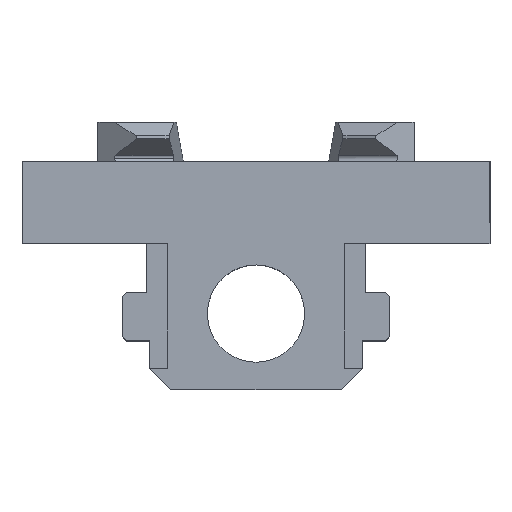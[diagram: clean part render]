
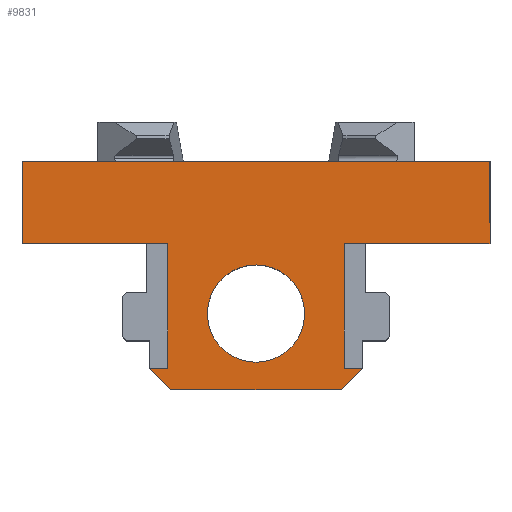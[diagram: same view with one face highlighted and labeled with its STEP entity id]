
A CAD part, top view. The second image highlights one B-rep face of the part: STEP entity #9831.
In plain terms, the highlighted planar face has unit normal (0, 0, 1).
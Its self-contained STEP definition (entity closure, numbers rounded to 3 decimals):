
#82 = VERTEX_POINT ( 'NONE', #5383 ) ;
#117 = VERTEX_POINT ( 'NONE', #7698 ) ;
#207 = DIRECTION ( 'NONE',  ( 0., 0., 1. ) ) ;
#244 = ORIENTED_EDGE ( 'NONE', *, *, #1753, .T. ) ;
#341 = VERTEX_POINT ( 'NONE', #771 ) ;
#429 = LINE ( 'NONE', #1584, #9582 ) ;
#554 = VECTOR ( 'NONE', #8984, 1000. ) ;
#556 = DIRECTION ( 'NONE',  ( 1., 0., 0. ) ) ;
#602 = VECTOR ( 'NONE', #7485, 1000. ) ;
#771 = CARTESIAN_POINT ( 'NONE',  ( 18., 24., 9.5 ) ) ;
#1122 = DIRECTION ( 'NONE',  ( -1., 0., 0. ) ) ;
#1211 = LINE ( 'NONE', #6407, #1626 ) ;
#1549 = VERTEX_POINT ( 'NONE', #10443 ) ;
#1584 = CARTESIAN_POINT ( 'NONE',  ( -38.5, 0., 9.5 ) ) ;
#1626 = VECTOR ( 'NONE', #8457, 1000. ) ;
#1753 = EDGE_CURVE ( 'NONE', #82, #9811, #429, .T. ) ;
#1994 = LINE ( 'NONE', #10248, #9915 ) ;
#2014 = VECTOR ( 'NONE', #5474, 1000. ) ;
#2056 = DIRECTION ( 'NONE',  ( 1., 0., 0. ) ) ;
#2113 = ORIENTED_EDGE ( 'NONE', *, *, #7374, .T. ) ;
#2140 = DIRECTION ( 'NONE',  ( 1., 0., 0. ) ) ;
#2145 = VECTOR ( 'NONE', #13288, 1000. ) ;
#2187 = ORIENTED_EDGE ( 'NONE', *, *, #7543, .F. ) ;
#2255 = CARTESIAN_POINT ( 'NONE',  ( -38.5, 3.5, 9.5 ) ) ;
#2306 = DIRECTION ( 'NONE',  ( -1., 0., 0. ) ) ;
#2578 = VERTEX_POINT ( 'NONE', #9377 ) ;
#2730 = ORIENTED_EDGE ( 'NONE', *, *, #4572, .T. ) ;
#2854 = CARTESIAN_POINT ( 'NONE',  ( -38.5, 3.5, 9.5 ) ) ;
#2929 = CARTESIAN_POINT ( 'NONE',  ( -38.5, 0., 9.5 ) ) ;
#2963 = VECTOR ( 'NONE', #12300, 1000. ) ;
#2978 = VECTOR ( 'NONE', #5897, 1000. ) ;
#2996 = CARTESIAN_POINT ( 'NONE',  ( -38.501, 24., 9.5 ) ) ;
#3072 = AXIS2_PLACEMENT_3D ( 'NONE', #9483, #207, #2306 ) ;
#3344 = ORIENTED_EDGE ( 'NONE', *, *, #9499, .T. ) ;
#3484 = CIRCLE ( 'NONE', #3072, 8. ) ;
#3802 = CARTESIAN_POINT ( 'NONE',  ( 14.5, 3.5, 9.5 ) ) ;
#3807 = CARTESIAN_POINT ( 'NONE',  ( 0., 12.5, 9.5 ) ) ;
#4067 = LINE ( 'NONE', #2255, #10084 ) ;
#4192 = VERTEX_POINT ( 'NONE', #12841 ) ;
#4213 = ORIENTED_EDGE ( 'NONE', *, *, #7768, .F. ) ;
#4225 = ORIENTED_EDGE ( 'NONE', *, *, #9790, .T. ) ;
#4270 = EDGE_CURVE ( 'NONE', #7666, #10793, #7812, .T. ) ;
#4335 = EDGE_LOOP ( 'NONE', ( #3344, #244, #2730, #11158, #11028, #12955, #7205, #2113, #4213, #2187, #4225, #6698, #8911, #10105 ) ) ;
#4404 = CARTESIAN_POINT ( 'NONE',  ( -18., 24., 9.5 ) ) ;
#4572 = EDGE_CURVE ( 'NONE', #9811, #6963, #5709, .T. ) ;
#4589 = CARTESIAN_POINT ( 'NONE',  ( 14.5, 24., 9.5 ) ) ;
#4693 = LINE ( 'NONE', #12963, #2978 ) ;
#4796 = EDGE_CURVE ( 'NONE', #2578, #4192, #5756, .T. ) ;
#4860 = LINE ( 'NONE', #8043, #554 ) ;
#5103 = CARTESIAN_POINT ( 'NONE',  ( 14., 0., 9.5 ) ) ;
#5225 = VERTEX_POINT ( 'NONE', #10890 ) ;
#5298 = EDGE_LOOP ( 'NONE', ( #12501, #11888 ) ) ;
#5383 = CARTESIAN_POINT ( 'NONE',  ( -14., 0., 9.5 ) ) ;
#5474 = DIRECTION ( 'NONE',  ( 1., 0., 0. ) ) ;
#5556 = VERTEX_POINT ( 'NONE', #4404 ) ;
#5648 = CARTESIAN_POINT ( 'NONE',  ( 14., 0., 9.5 ) ) ;
#5709 = LINE ( 'NONE', #5648, #6878 ) ;
#5756 = LINE ( 'NONE', #2854, #12962 ) ;
#5798 = DIRECTION ( 'NONE',  ( 0., 1., 0. ) ) ;
#5897 = DIRECTION ( 'NONE',  ( 0., -1., 0. ) ) ;
#6110 = DIRECTION ( 'NONE',  ( 0., 0., -1. ) ) ;
#6166 = DIRECTION ( 'NONE',  ( -1., 0., 0. ) ) ;
#6246 = PLANE ( 'NONE',  #9036 ) ;
#6356 = CARTESIAN_POINT ( 'NONE',  ( -38.501, 24., 9.5 ) ) ;
#6407 = CARTESIAN_POINT ( 'NONE',  ( -38.5, 37.5, 9.5 ) ) ;
#6698 = ORIENTED_EDGE ( 'NONE', *, *, #10073, .T. ) ;
#6878 = VECTOR ( 'NONE', #9799, 1000. ) ;
#6963 = VERTEX_POINT ( 'NONE', #8650 ) ;
#7205 = ORIENTED_EDGE ( 'NONE', *, *, #7214, .T. ) ;
#7214 = EDGE_CURVE ( 'NONE', #341, #1549, #11603, .T. ) ;
#7237 = EDGE_CURVE ( 'NONE', #5225, #8046, #3484, .T. ) ;
#7253 = DIRECTION ( 'NONE',  ( 1., 0., 0. ) ) ;
#7374 = EDGE_CURVE ( 'NONE', #1549, #8295, #7657, .T. ) ;
#7414 = LINE ( 'NONE', #11434, #602 ) ;
#7485 = DIRECTION ( 'NONE',  ( 0.707, -0.707, 0. ) ) ;
#7543 = EDGE_CURVE ( 'NONE', #12843, #117, #1211, .T. ) ;
#7657 = LINE ( 'NONE', #11803, #11069 ) ;
#7666 = VERTEX_POINT ( 'NONE', #4589 ) ;
#7698 = CARTESIAN_POINT ( 'NONE',  ( -38.5, 37.5, 9.5 ) ) ;
#7768 = EDGE_CURVE ( 'NONE', #117, #8295, #4860, .T. ) ;
#7812 = LINE ( 'NONE', #11964, #2963 ) ;
#7919 = LINE ( 'NONE', #10027, #2145 ) ;
#8043 = CARTESIAN_POINT ( 'NONE',  ( -38.501, 37.5, 9.5 ) ) ;
#8046 = VERTEX_POINT ( 'NONE', #9638 ) ;
#8295 = VERTEX_POINT ( 'NONE', #10306 ) ;
#8374 = CIRCLE ( 'NONE', #11848, 8. ) ;
#8457 = DIRECTION ( 'NONE',  ( 0., 1., 0. ) ) ;
#8650 = CARTESIAN_POINT ( 'NONE',  ( 17.5, 3.5, 9.5 ) ) ;
#8911 = ORIENTED_EDGE ( 'NONE', *, *, #9979, .T. ) ;
#8984 = DIRECTION ( 'NONE',  ( 1., 0., 0. ) ) ;
#9036 = AXIS2_PLACEMENT_3D ( 'NONE', #2929, #6110, #1122 ) ;
#9377 = CARTESIAN_POINT ( 'NONE',  ( -17.5, 3.5, 9.5 ) ) ;
#9483 = CARTESIAN_POINT ( 'NONE',  ( 0., 12.5, 9.5 ) ) ;
#9499 = EDGE_CURVE ( 'NONE', #2578, #82, #7414, .T. ) ;
#9582 = VECTOR ( 'NONE', #556, 1000. ) ;
#9638 = CARTESIAN_POINT ( 'NONE',  ( 8., 12.5, 9.5 ) ) ;
#9647 = CARTESIAN_POINT ( 'NONE',  ( -38.5, 24., 9.5 ) ) ;
#9790 = EDGE_CURVE ( 'NONE', #12843, #5556, #12309, .T. ) ;
#9799 = DIRECTION ( 'NONE',  ( 0.707, 0.707, 0. ) ) ;
#9811 = VERTEX_POINT ( 'NONE', #5103 ) ;
#9831 = ADVANCED_FACE ( 'NONE', ( #12245, #11303 ), #6246, .F. ) ;
#9906 = VECTOR ( 'NONE', #2140, 1000. ) ;
#9909 = DIRECTION ( 'NONE',  ( 1., 0., 0. ) ) ;
#9915 = VECTOR ( 'NONE', #7253, 1000. ) ;
#9979 = EDGE_CURVE ( 'NONE', #10525, #4192, #4693, .T. ) ;
#10027 = CARTESIAN_POINT ( 'NONE',  ( -38.501, 24., 9.5 ) ) ;
#10073 = EDGE_CURVE ( 'NONE', #5556, #10525, #1994, .T. ) ;
#10084 = VECTOR ( 'NONE', #2056, 1000. ) ;
#10105 = ORIENTED_EDGE ( 'NONE', *, *, #4796, .F. ) ;
#10248 = CARTESIAN_POINT ( 'NONE',  ( -38.501, 24., 9.5 ) ) ;
#10306 = CARTESIAN_POINT ( 'NONE',  ( 38.5, 37.5, 9.5 ) ) ;
#10443 = CARTESIAN_POINT ( 'NONE',  ( 38.5, 24., 9.5 ) ) ;
#10525 = VERTEX_POINT ( 'NONE', #11395 ) ;
#10793 = VERTEX_POINT ( 'NONE', #3802 ) ;
#10890 = CARTESIAN_POINT ( 'NONE',  ( -8., 12.5, 9.5 ) ) ;
#11028 = ORIENTED_EDGE ( 'NONE', *, *, #4270, .F. ) ;
#11069 = VECTOR ( 'NONE', #5798, 1000. ) ;
#11157 = DIRECTION ( 'NONE',  ( 0., 0., 1. ) ) ;
#11158 = ORIENTED_EDGE ( 'NONE', *, *, #12622, .F. ) ;
#11303 = FACE_BOUND ( 'NONE', #5298, .T. ) ;
#11395 = CARTESIAN_POINT ( 'NONE',  ( -14.5, 24., 9.5 ) ) ;
#11434 = CARTESIAN_POINT ( 'NONE',  ( -17.5, 3.5, 9.5 ) ) ;
#11603 = LINE ( 'NONE', #6356, #2014 ) ;
#11803 = CARTESIAN_POINT ( 'NONE',  ( 38.5, 37.5, 9.5 ) ) ;
#11848 = AXIS2_PLACEMENT_3D ( 'NONE', #3807, #11157, #6166 ) ;
#11888 = ORIENTED_EDGE ( 'NONE', *, *, #7237, .F. ) ;
#11964 = CARTESIAN_POINT ( 'NONE',  ( 14.5, 54.083, 9.5 ) ) ;
#12245 = FACE_OUTER_BOUND ( 'NONE', #4335, .T. ) ;
#12300 = DIRECTION ( 'NONE',  ( 0., -1., 0. ) ) ;
#12309 = LINE ( 'NONE', #2996, #9906 ) ;
#12345 = EDGE_CURVE ( 'NONE', #7666, #341, #7919, .T. ) ;
#12501 = ORIENTED_EDGE ( 'NONE', *, *, #12890, .F. ) ;
#12622 = EDGE_CURVE ( 'NONE', #10793, #6963, #4067, .T. ) ;
#12841 = CARTESIAN_POINT ( 'NONE',  ( -14.5, 3.5, 9.5 ) ) ;
#12843 = VERTEX_POINT ( 'NONE', #9647 ) ;
#12890 = EDGE_CURVE ( 'NONE', #8046, #5225, #8374, .T. ) ;
#12955 = ORIENTED_EDGE ( 'NONE', *, *, #12345, .T. ) ;
#12962 = VECTOR ( 'NONE', #9909, 1000. ) ;
#12963 = CARTESIAN_POINT ( 'NONE',  ( -14.5, 54.083, 9.5 ) ) ;
#13288 = DIRECTION ( 'NONE',  ( 1., 0., 0. ) ) ;
